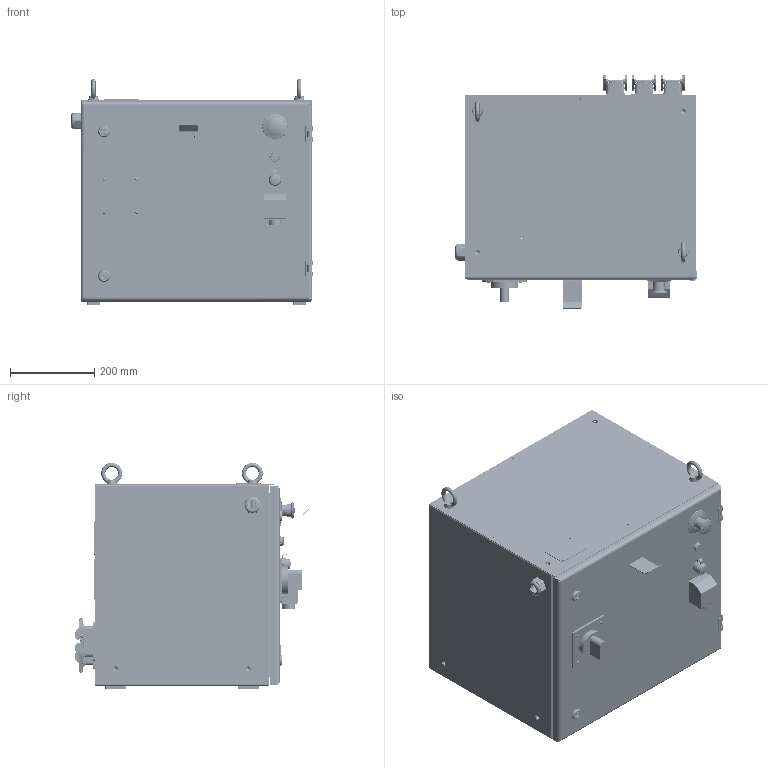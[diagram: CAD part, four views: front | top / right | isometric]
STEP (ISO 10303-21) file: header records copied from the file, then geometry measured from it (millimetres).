
FILE_DESCRIPTION((''),'2;1');
FILE_NAME('N2M_6_ASM','2022-01-11T09:39:14',('choes'),(''),'CREO PARAMETRIC BY PTC INC, 2020354','CREO PARAMETRIC BY PTC INC, 2020354','');
FILE_SCHEMA(('CONFIG_CONTROL_DESIGN'));
Products named in the file (2): PRT0263; N2M_6_ASM
Assembly tree (1 placements, depth 2):
  N2M_6_ASM
    PRT0263
Bounding box: 574.7 x 555.86 x 538.5 mm (x, y, z)
Volume: 3902553.3 mm3; surface area: 4258538.8 mm2
Topology: 15 solids, 226 shells, 11987 faces, 32886 edges, 21161 vertices
Faces by surface type: plane 5208, cylinder 4119, cone 1490, bspline 603, torus 532, sphere 24, extrusion 11
Entity records: 492837 total; most frequent: CARTESIAN_POINT 187459, ORIENTED_EDGE 64157, DIRECTION 63324, EDGE_CURVE 32781, AXIS2_PLACEMENT_3D 23230, VERTEX_POINT 21159, VECTOR 16864, LINE 16853
